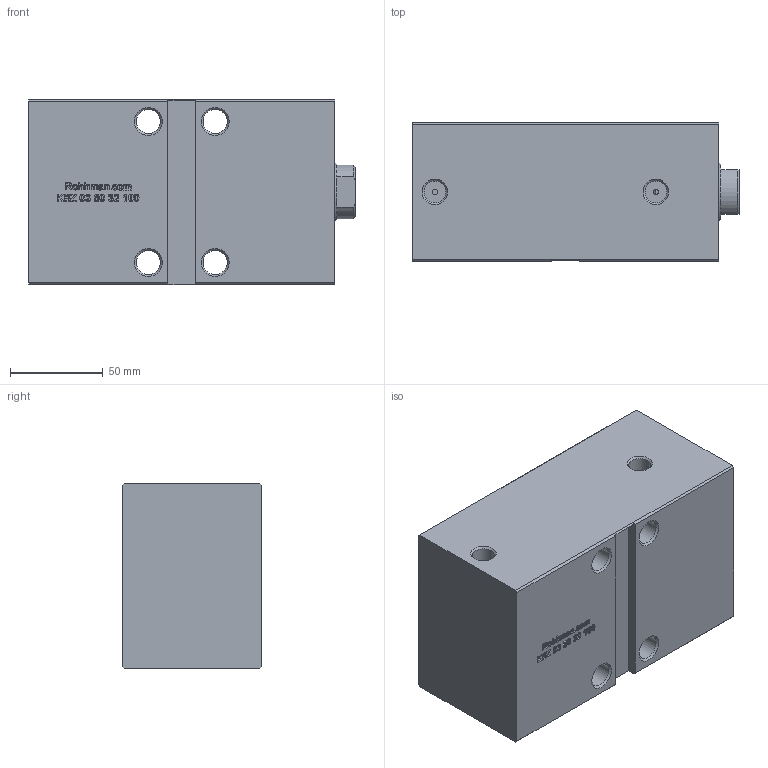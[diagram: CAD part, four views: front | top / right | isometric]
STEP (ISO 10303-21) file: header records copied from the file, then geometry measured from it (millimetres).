
FILE_DESCRIPTION(/* description */ (''),/* implementation_level */ '2;1');
FILE_NAME(/* name */ 'KBZ_03_50_32_100_WEB.step',/* time_stamp */ '2023-08-25T16:28:18+03:00',/* author */ (''),/* organization */ (''),/* preprocessor_version */ 'ST-DEVELOPER v20',/* originating_system */ 'Autodesk Translation Framework v12.9.0.99',/* authorisation */ '');
FILE_SCHEMA (('AUTOMOTIVE_DESIGN { 1 0 10303 214 3 1 1 }'));
Length unit declared in the file: millimetre
Products named in the file (7): KBZ_03_50_32_20_MONTAJ; KAPAK; KAPAK_1; Ø32 MİL; MİL; GÖVDE; GÖVDE_1
Assembly tree (6 placements, depth 3):
  KBZ_03_50_32_20_MONTAJ
    KAPAK
      KAPAK_1
    Ø32 MİL
      MİL
    GÖVDE
      GÖVDE_1
Bounding box: 176 x 75 x 100 mm (x, y, z)
Volume: 1144148.8 mm3; surface area: 116607 mm2
Topology: 3 solids, 3 shells, 585 faces, 1592 edges, 1055 vertices
Faces by surface type: bspline 356, plane 187, cone 22, cylinder 20
Full cylindrical faces by diameter (mm): 3 x2, 5 x2, 11.668 x2, 13 x4, 17.519 x1, 32 x1, 32.5 x1, 50 x1, 55 x2, 60 x2
Entity records: 21889 total; most frequent: CARTESIAN_POINT 9345, ORIENTED_EDGE 3184, EDGE_CURVE 1592, DIRECTION 1421, VERTEX_POINT 1055, LINE 809, VECTOR 809, B_SPLINE_CURVE_WITH_KNOTS 715
